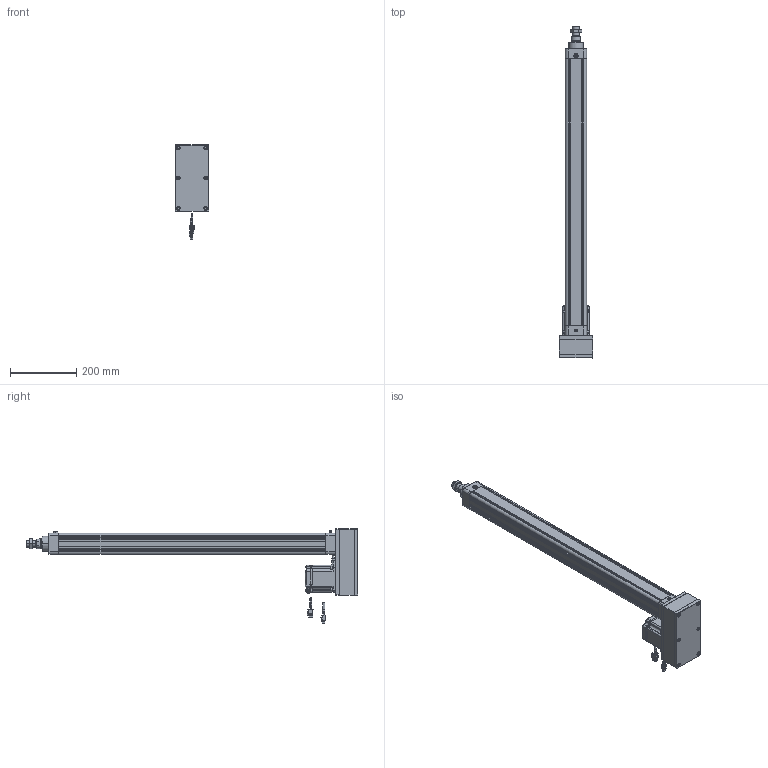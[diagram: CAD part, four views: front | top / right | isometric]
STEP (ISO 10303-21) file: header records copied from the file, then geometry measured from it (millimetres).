
FILE_DESCRIPTION((''),'2;1');
FILE_NAME('HE50-D-100-X1_ASM','2020-04-07T',('ASUS20200'),(''),'CREO PARAMETRIC BY PTC INC, 2014190','CREO PARAMETRIC BY PTC INC, 2014190','');
FILE_SCHEMA(('CONFIG_CONTROL_DESIGN'));
Length unit declared in the file: millimetre
Products named in the file (27): HE50-D-P-001-X1; HE50-D-P-002-X1; HE50-D-P-003-X1; 6301ZZ; LGLM-M8-22; SLM-01; YZ-M6X1; HE50-P-010-X1-400W; _MHMF082L1A2; _CABLE_MOTOR_TOP_05; _MOTOR_CONNECTOR_2; _CABLE_BRAKE_TOP_05; _MHMF_CONNECTOR_9_PIN_A6; MHMF082L1A2M2_1_ASM; TD-6; M6X25; LM-M6X1; JX6X6X20; M6X25-DS; LM-M6-15; HE50-P-012-X1; HE50-P-013-X1; M6X60; HE50-D-P-005-X1; HE50-D-P-004-X1; HE50-D-P-008-X1; HE50-D-100-X1_ASM
Assembly tree (48 placements, depth 3):
  HE50-D-100-X1_ASM
    HE50-D-P-001-X1
    HE50-D-P-002-X1
    HE50-D-P-003-X1
    6301ZZ
    LGLM-M8-22  x8
    SLM-01
    YZ-M6X1
    HE50-P-010-X1-400W
    MHMF082L1A2M2_1_ASM
      _MHMF082L1A2
      _CABLE_MOTOR_TOP_05
      _MOTOR_CONNECTOR_2
      _CABLE_BRAKE_TOP_05
      _MHMF_CONNECTOR_9_PIN_A6
    TD-6  x4
    M6X25  x4
    LM-M6X1  x5
    JX6X6X20
    M6X25-DS
    LM-M6-15
    HE50-P-012-X1
    HE50-P-013-X1
    M6X60  x6
    HE50-D-P-005-X1
    HE50-D-P-004-X1
    HE50-D-P-008-X1
Bounding box: 100 x 998.5 x 283.65 mm (x, y, z)
Volume: 2790848.1 mm3; surface area: 797558 mm2
Topology: 47 solids, 74 shells, 2788 faces, 6672 edges, 4118 vertices
Faces by surface type: plane 1227, cylinder 739, cone 679, torus 110, sphere 30, bspline 3
Entity records: 66806 total; most frequent: CARTESIAN_POINT 12811, DIRECTION 11715, ORIENTED_EDGE 10664, EDGE_CURVE 5376, AXIS2_PLACEMENT_3D 4311, VERTEX_POINT 3337, VECTOR 3093, LINE 3093
